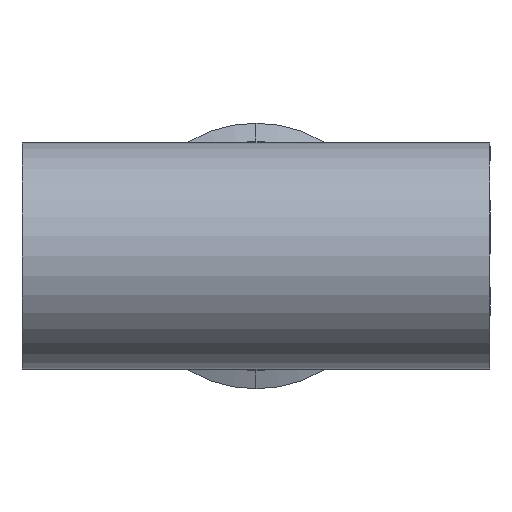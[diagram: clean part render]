
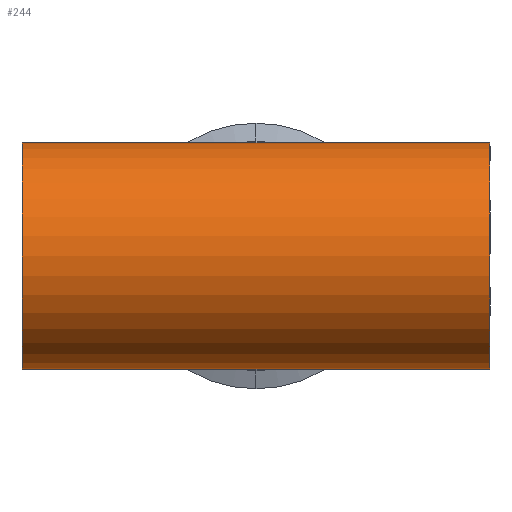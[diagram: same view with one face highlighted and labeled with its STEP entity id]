
A CAD part, front view. The second image highlights one B-rep face of the part: STEP entity #244.
In plain terms, the highlighted cylindrical face has radius 50.8 mm (diameter 101.6 mm), a partial arc.
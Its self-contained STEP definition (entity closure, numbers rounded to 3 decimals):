
#126 = CARTESIAN_POINT ( 'NONE',  ( -104.8, 0., -50.8 ) ) ;
#133 = CARTESIAN_POINT ( 'NONE',  ( -104.8, 0., -50.8 ) ) ;
#149 = CARTESIAN_POINT ( 'NONE',  ( 104.8, 0., 0. ) ) ;
#164 = DIRECTION ( 'NONE',  ( -1., 0., 0. ) ) ;
#180 = DIRECTION ( 'NONE',  ( 0., 0., -1. ) ) ;
#244 = ADVANCED_FACE ( 'NONE', ( #1885 ), #1598, .T. ) ;
#386 = CARTESIAN_POINT ( 'NONE',  ( -104.8, 0., 0. ) ) ;
#435 = CARTESIAN_POINT ( 'NONE',  ( 0., 0., 50.8 ) ) ;
#516 = DIRECTION ( 'NONE',  ( 1., 0., 0. ) ) ;
#600 = LINE ( 'NONE', #2012, #2088 ) ;
#652 = DIRECTION ( 'NONE',  ( 0., 0., -1. ) ) ;
#678 = DIRECTION ( 'NONE',  ( 1., 0., 0. ) ) ;
#886 = VECTOR ( 'NONE', #1318, 1000. ) ;
#931 = LINE ( 'NONE', #133, #2839 ) ;
#1141 = VERTEX_POINT ( 'NONE', #126 ) ;
#1254 = DIRECTION ( 'NONE',  ( 1., 0., 0. ) ) ;
#1272 = DIRECTION ( 'NONE',  ( 0., 0., -1. ) ) ;
#1275 = LINE ( 'NONE', #1506, #1765 ) ;
#1292 = VERTEX_POINT ( 'NONE', #1563 ) ;
#1318 = DIRECTION ( 'NONE',  ( 1., 0., 0. ) ) ;
#1392 = CARTESIAN_POINT ( 'NONE',  ( -104.8, 0., 0. ) ) ;
#1442 = EDGE_LOOP ( 'NONE', ( #2341, #2890, #2627, #2553, #2845, #2625 ) ) ;
#1506 = CARTESIAN_POINT ( 'NONE',  ( -104.8, 0., -50.8 ) ) ;
#1540 = EDGE_CURVE ( 'NONE', #1292, #2693, #2994, .T. ) ;
#1563 = CARTESIAN_POINT ( 'NONE',  ( 104.8, 0., -50.8 ) ) ;
#1598 = CYLINDRICAL_SURFACE ( 'NONE', #1860, 50.8 ) ;
#1648 = CIRCLE ( 'NONE', #1751, 50.8 ) ;
#1751 = AXIS2_PLACEMENT_3D ( 'NONE', #386, #2156, #652 ) ;
#1765 = VECTOR ( 'NONE', #2021, 1000. ) ;
#1778 = VERTEX_POINT ( 'NONE', #3018 ) ;
#1860 = AXIS2_PLACEMENT_3D ( 'NONE', #1392, #1254, #1272 ) ;
#1885 = FACE_OUTER_BOUND ( 'NONE', #1442, .T. ) ;
#1912 = CARTESIAN_POINT ( 'NONE',  ( 104.8, 0., 50.8 ) ) ;
#1941 = EDGE_CURVE ( 'NONE', #2388, #2810, #2238, .T. ) ;
#2012 = CARTESIAN_POINT ( 'NONE',  ( -104.8, 0., 50.8 ) ) ;
#2021 = DIRECTION ( 'NONE',  ( 1., 0., 0. ) ) ;
#2088 = VECTOR ( 'NONE', #516, 1000. ) ;
#2156 = DIRECTION ( 'NONE',  ( 1., 0., 0. ) ) ;
#2238 = LINE ( 'NONE', #2722, #886 ) ;
#2334 = EDGE_CURVE ( 'NONE', #2388, #1141, #1648, .T. ) ;
#2341 = ORIENTED_EDGE ( 'NONE', *, *, #1941, .F. ) ;
#2388 = VERTEX_POINT ( 'NONE', #2419 ) ;
#2419 = CARTESIAN_POINT ( 'NONE',  ( -104.8, 0., 50.8 ) ) ;
#2465 = EDGE_CURVE ( 'NONE', #1141, #1778, #931, .T. ) ;
#2553 = ORIENTED_EDGE ( 'NONE', *, *, #2955, .T. ) ;
#2625 = ORIENTED_EDGE ( 'NONE', *, *, #2827, .F. ) ;
#2627 = ORIENTED_EDGE ( 'NONE', *, *, #2465, .T. ) ;
#2693 = VERTEX_POINT ( 'NONE', #1912 ) ;
#2722 = CARTESIAN_POINT ( 'NONE',  ( -104.8, 0., 50.8 ) ) ;
#2810 = VERTEX_POINT ( 'NONE', #435 ) ;
#2827 = EDGE_CURVE ( 'NONE', #2810, #2693, #600, .T. ) ;
#2839 = VECTOR ( 'NONE', #678, 1000. ) ;
#2845 = ORIENTED_EDGE ( 'NONE', *, *, #1540, .T. ) ;
#2890 = ORIENTED_EDGE ( 'NONE', *, *, #2334, .T. ) ;
#2955 = EDGE_CURVE ( 'NONE', #1778, #1292, #1275, .T. ) ;
#2994 = CIRCLE ( 'NONE', #3217, 50.8 ) ;
#3018 = CARTESIAN_POINT ( 'NONE',  ( 0., 0., -50.8 ) ) ;
#3217 = AXIS2_PLACEMENT_3D ( 'NONE', #149, #164, #180 ) ;
